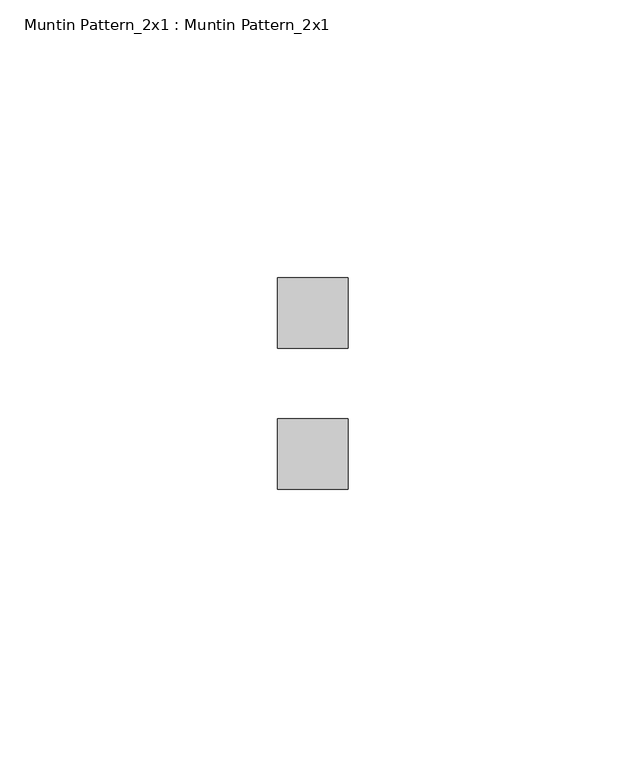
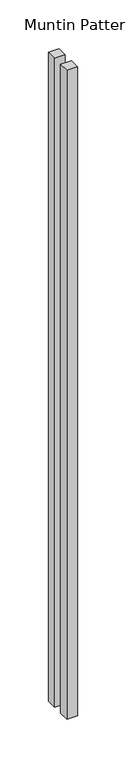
"""IFC4 building model written with IfcOpenShell, lengths in millimetres: proxy geometry, Muntin Pattern_2x1 : Muntin Pattern_2x1."""

from ifc_helpers import new_model, si_unit, origin, origin_with_axes, place, context, project, spatial, polyline, outline, extrude, source, transform, mapped, element, save


def muntin_pattern_2x1_muntin_pattern_2x1_bbdac9d8(model_context):
    return source(origin(), model_context, "Body", "SweptSolid", [
        extrude(outline(polyline([(-6.35, 19.05), (6.35, 19.05), (6.35, 6.35), (-6.35, 6.35), (-6.35, 19.05)])), origin_with_axes(), (0.0, 0.0, 1.0), 815.975),
        extrude(outline(polyline([(-6.35, -6.35), (6.35, -6.35), (6.35, -19.05), (-6.35, -19.05), (-6.35, -6.35)])), origin_with_axes(), (0.0, 0.0, 1.0), 815.975),
    ])


if __name__ == "__main__":
    model = new_model("IFC4")
    model_context = context("Model", 3, world=origin())
    ifc_project = project(units=[si_unit("LENGTHUNIT", "METRE", prefix="MILLI")], contexts=[model_context])
    site = spatial("IfcSite", under=ifc_project)
    building = spatial("IfcBuilding", under=site)
    placement = place(None, origin())
    muntin_pattern_2x1_muntin_pattern_2x1_shape = muntin_pattern_2x1_muntin_pattern_2x1_bbdac9d8(model_context)
    element("IfcBuildingElementProxy", 1, Name="Muntin Pattern_2x1 : Muntin Pattern_2x1", ObjectType="Muntin Pattern_2x1 : Muntin Pattern_2x1", at=placement, inside=building, context=model_context, shape_type="MappedRepresentation", body=[
        mapped(muntin_pattern_2x1_muntin_pattern_2x1_shape, transform((0.0, 0.0, 0.0), x_axis=(1.0, 0.0, 0.0), y_axis=(0.0, 1.0, 0.0), z_axis=(0.0, 0.0, 1.0))),
    ])
    save(model, "model.ifc")
